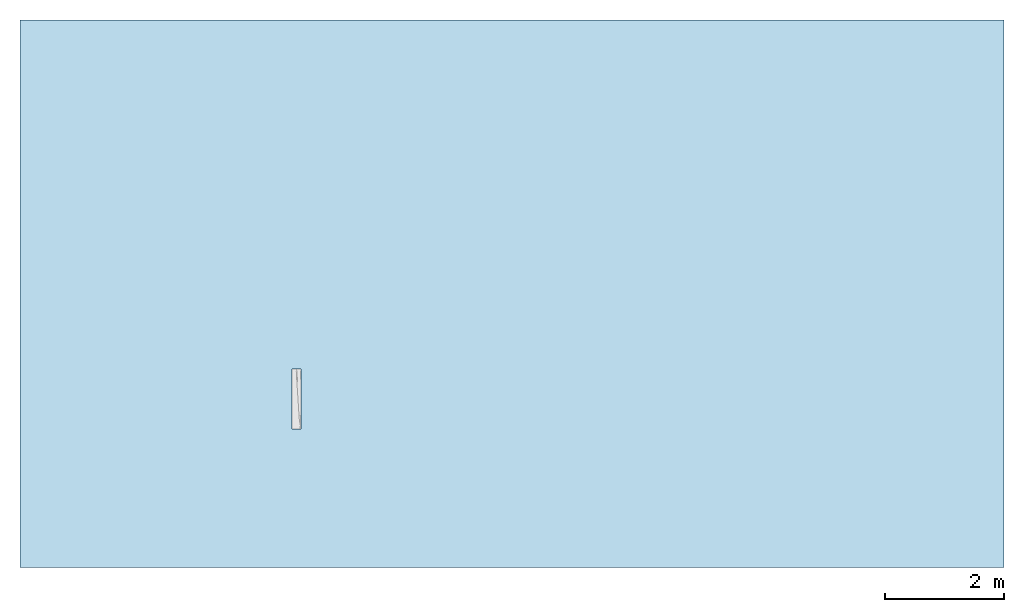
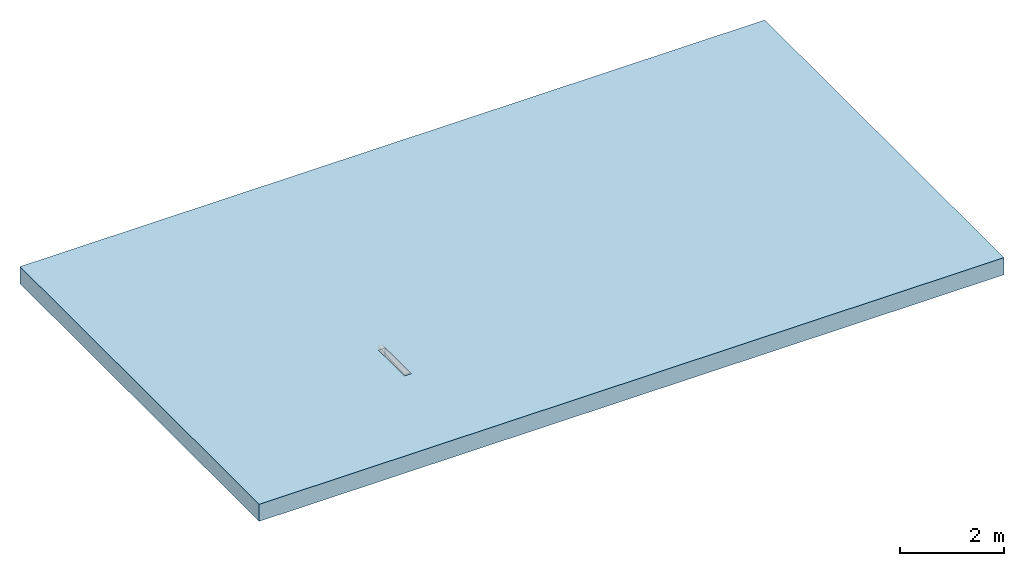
# One storey, part 1 of 2: 1 slab, 3 openings.
"""IFC2X3 building model written with IfcOpenShell, lengths in millimetres."""

from ifc_helpers import new_model, entity, si_unit, converted_unit, direction, frame, frame_2d, origin, origin_2d_with_axis, place, context, subcontext, project, spatial, rectangle, circle, extrude, material, layer, layer_set, layer_usage, element, save


model = new_model("IFC2X3")

# Units and contexts
model_context = context("Model", 3, precision=1e-06, world=origin(), true_north=direction((2.0, 6.12303176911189e-17, 1.0)))
context_of_model = context(None, 3, precision=1e-06, world=origin(), true_north=direction((2.0, 6.12303176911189e-17, 1.0)))
body_context = subcontext(model_context, "Body", "Model", "MODEL_VIEW")
ifc_project = project(units=[si_unit("LENGTHUNIT", "METRE", prefix="MILLI"), si_unit("AREAUNIT", "SQUARE_METRE", prefix="MILLI"), si_unit("VOLUMEUNIT", "CUBIC_METRE", prefix="MILLI"), converted_unit("PLANEANGLEUNIT", "DEGREE", entity("IfcRatioMeasure", 0.0174532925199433), si_unit("PLANEANGLEUNIT", "RADIAN"), dimensions=[0, 0, 0, 0, 0, 0, 0]), si_unit("TIMEUNIT", "SECOND")], contexts=[model_context, context_of_model])

# Site, building, storey
site_placement = place(None, origin())
site = spatial("IfcSite", under=ifc_project, at=site_placement, Name="Default", CompositionType="ELEMENT")
building_placement = place(site_placement, origin())
building = spatial("IfcBuilding", under=site, at=building_placement, CompositionType="ELEMENT")
storey_placement = place(building_placement, origin())
storey = spatial("IfcBuildingStorey", under=building, at=storey_placement, Name="Level 1", CompositionType="ELEMENT", Elevation=0.0)

# Slab, openings
ifc_material = material(Name="Plant")
ifc_layer = layer(ifc_material, 400.0)
ifc_layer_set = layer_set([ifc_layer], Name="Floor:Generic Floor - 400mm")
ifc_layer_usage = layer_usage(ifc_layer_set, "AXIS3", "POSITIVE", 0.0)
slab_placement = place(storey_placement, frame((-17967.0691536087, -3738.31688706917, -400.0)))
slab = element("IfcSlab", 1, at=slab_placement, inside=storey, material=ifc_layer_usage, Name="Floor:Generic Floor - 400mm", ObjectType="Floor:Generic Floor - 400mm", PredefinedType="FLOOR", context=body_context, shape_type="SweptSolid", body=[
    extrude(rectangle(XDim=9180.0, YDim=16500.0, at=frame_2d((0.0, 0.0), x_axis=(0.0, -1.0))), frame((8250.0, 4590.0, 400.0), z_axis=(0.0, 0.0, -1.0), x_axis=(-1.0, 0.0, 0.0)), (0.0, 0.0, 1.0), 400.0),
])
opening_1_placement = place(slab_placement, origin())
element("IfcOpeningElement", 2, at=opening_1_placement, cuts=slab, ObjectType="Recess", context=body_context, shape_type="SweptSolid", body=[
    extrude(circle(Radius=55.0, at=origin_2d_with_axis()), frame((4636.37956964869, 2375.59509511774, -1475.0), z_axis=(0.0, 1.0, 0.0), x_axis=(1.0, 0.0, 0.0)), (0.0, 0.0, 1.0), 50.0),
])
opening_2_placement = place(slab_placement, origin())
element("IfcOpeningElement", 3, at=opening_2_placement, cuts=slab, ObjectType="Recess", context=body_context, shape_type="SweptSolid", body=[
    extrude(rectangle(XDim=280.350941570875, YDim=1.99999999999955, at=origin_2d_with_axis()), frame((4562.79407136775, 2575.77056590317, -1754.0), z_axis=(0.0, 0.0, 1.0), x_axis=(0.0, 1.0, 0.0)), (0.0, 0.0, 1.0), 279.000000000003),
])
opening_3_placement = place(slab_placement, origin())
element("IfcOpeningElement", 4, at=opening_3_placement, cuts=slab, ObjectType="Recess", context=body_context, shape_type="SweptSolid", body=[
    extrude(rectangle(XDim=149.999999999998, YDim=1000.0, at=origin_2d_with_axis()), frame((4636.79407136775, 2825.59509511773, 120.0), z_axis=(0.0, 0.0, 1.0), x_axis=(-1.0, 0.0, 0.0)), (0.0, 0.0, 1.0), 280.0),
])

save(model, "model.ifc")
